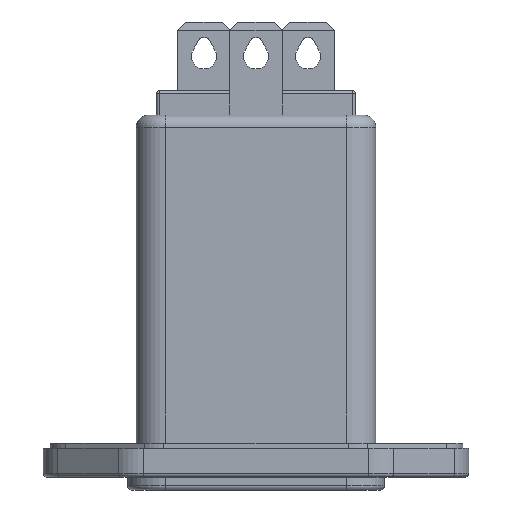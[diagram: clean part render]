
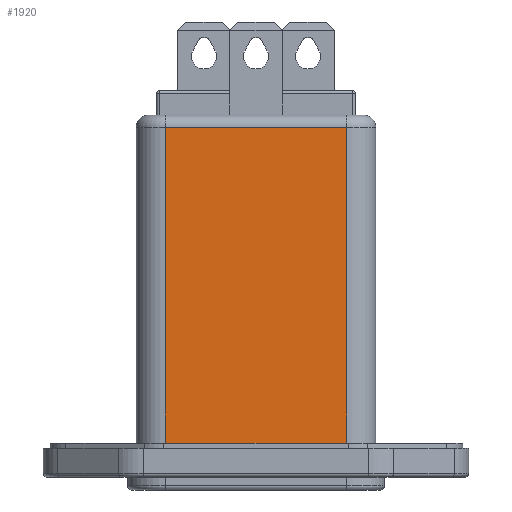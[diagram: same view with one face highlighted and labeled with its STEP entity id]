
A CAD part, front view. The second image highlights one B-rep face of the part: STEP entity #1920.
In plain terms, the highlighted planar face has unit normal (0, -1, 0).
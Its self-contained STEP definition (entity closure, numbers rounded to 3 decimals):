
#139 = CARTESIAN_POINT ( 'NONE',  ( -10.8, -10.4, 4.1 ) ) ;
#246 = LINE ( 'NONE', #1389, #11058 ) ;
#601 = AXIS2_PLACEMENT_3D ( 'NONE', #11017, #2554, #12436 ) ;
#807 = CARTESIAN_POINT ( 'NONE',  ( -10.8, -10.4, 4.1 ) ) ;
#1297 = VECTOR ( 'NONE', #12111, 1000. ) ;
#1389 = CARTESIAN_POINT ( 'NONE',  ( -10.8, -10.4, 41.7 ) ) ;
#1675 = ORIENTED_EDGE ( 'NONE', *, *, #11567, .T. ) ;
#1920 = ADVANCED_FACE ( 'NONE', ( #3000 ), #2508, .T. ) ;
#2258 = CARTESIAN_POINT ( 'NONE',  ( -10.8, -10.4, 4.1 ) ) ;
#2508 = PLANE ( 'NONE',  #601 ) ;
#2554 = DIRECTION ( 'NONE',  ( 0., -1., 0. ) ) ;
#2799 = DIRECTION ( 'NONE',  ( 1., 0., 0. ) ) ;
#3000 = FACE_OUTER_BOUND ( 'NONE', #6609, .T. ) ;
#3311 = EDGE_CURVE ( 'NONE', #11612, #16871, #10850, .T. ) ;
#3345 = VECTOR ( 'NONE', #17516, 1000. ) ;
#4857 = VECTOR ( 'NONE', #6486, 1000. ) ;
#5108 = ORIENTED_EDGE ( 'NONE', *, *, #15715, .F. ) ;
#6088 = CARTESIAN_POINT ( 'NONE',  ( -10.8, -10.4, 41.7 ) ) ;
#6259 = EDGE_CURVE ( 'NONE', #14552, #7789, #8571, .T. ) ;
#6486 = DIRECTION ( 'NONE',  ( 0., 0., 1. ) ) ;
#6609 = EDGE_LOOP ( 'NONE', ( #13823, #1675, #12485, #5108 ) ) ;
#7639 = CARTESIAN_POINT ( 'NONE',  ( 10.8, -10.4, 4.1 ) ) ;
#7789 = VERTEX_POINT ( 'NONE', #6088 ) ;
#8317 = CARTESIAN_POINT ( 'NONE',  ( 10.8, -10.4, 41.7 ) ) ;
#8571 = LINE ( 'NONE', #807, #4857 ) ;
#10850 = LINE ( 'NONE', #7639, #3345 ) ;
#11017 = CARTESIAN_POINT ( 'NONE',  ( -10.8, -10.4, 4.1 ) ) ;
#11058 = VECTOR ( 'NONE', #2799, 1000. ) ;
#11567 = EDGE_CURVE ( 'NONE', #14552, #11612, #18299, .T. ) ;
#11612 = VERTEX_POINT ( 'NONE', #12294 ) ;
#12111 = DIRECTION ( 'NONE',  ( 1., 0., 0. ) ) ;
#12294 = CARTESIAN_POINT ( 'NONE',  ( 10.8, -10.4, 4.1 ) ) ;
#12436 = DIRECTION ( 'NONE',  ( 0., 0., 1. ) ) ;
#12485 = ORIENTED_EDGE ( 'NONE', *, *, #3311, .T. ) ;
#13823 = ORIENTED_EDGE ( 'NONE', *, *, #6259, .F. ) ;
#14552 = VERTEX_POINT ( 'NONE', #139 ) ;
#15715 = EDGE_CURVE ( 'NONE', #7789, #16871, #246, .T. ) ;
#16871 = VERTEX_POINT ( 'NONE', #8317 ) ;
#17516 = DIRECTION ( 'NONE',  ( 0., 0., 1. ) ) ;
#18299 = LINE ( 'NONE', #2258, #1297 ) ;
